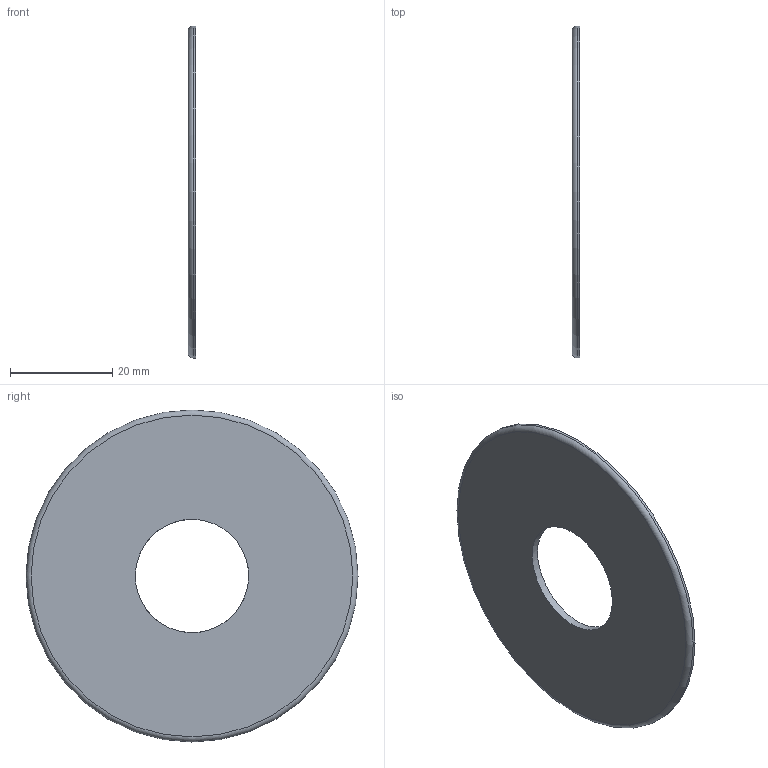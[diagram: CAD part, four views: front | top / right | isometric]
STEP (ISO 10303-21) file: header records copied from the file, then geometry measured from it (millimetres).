
FILE_DESCRIPTION(('Plaqueta Emergencia'),'2;1');
FILE_NAME('E:\WorkFolder\Bibl\3DWeb\Serie\C9\kp_c9_c9aqe_step.stp','2011-04-04T14:12:02',('DIE'),('KAP'),'Autodesk Inventor 2011','Autodesk Inventor 2011','Direitos reservados. Proibido reproducao, cedencia ou revelacao de conteudo a terceiros, salvo com autorizacao.');
FILE_SCHEMA(('AUTOMOTIVE_DESIGN { 1 0 10303 214 1 1 1 1 }'));
Length unit declared in the file: millimetre
Products named in the file (1): C9AQE_3D
Bounding box: 1.5 x 65 x 65 mm (x, y, z)
Volume: 4353.3 mm3; surface area: 6185.3 mm2
Topology: 1 solids, 1 shells, 5 faces, 9 edges, 6 vertices
Faces by surface type: plane 2, cylinder 2, torus 1
Full cylindrical faces by diameter (mm): 22.2 x1, 65 x1
Entity records: 141 total; most frequent: DIRECTION 22, CARTESIAN_POINT 16, AXIS2_PLACEMENT_3D 11, ORIENTED_EDGE 10, EDGE_LOOP 10, VERTEX_POINT 5, CIRCLE 5, EDGE_CURVE 5
